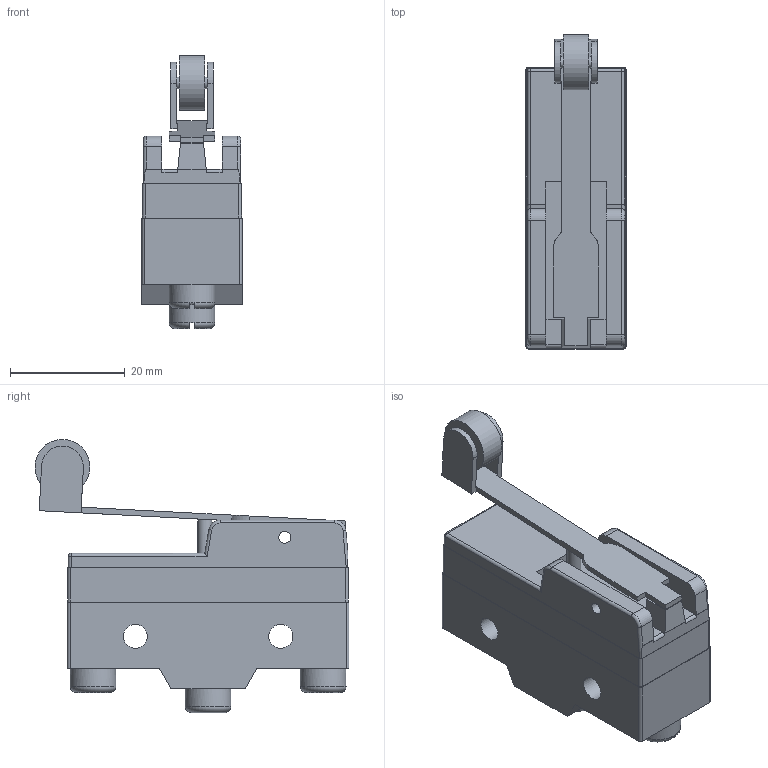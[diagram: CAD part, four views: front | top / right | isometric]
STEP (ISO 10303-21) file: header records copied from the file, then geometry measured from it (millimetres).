
FILE_DESCRIPTION(/* description */ (''),/* implementation_level */ '2;1');
FILE_NAME(/* name */ 'E:\Inventor 2016\제품 외형도\(\X2\C644B8CC\X0\) 리미트 스위치\직류용 마이크로 스위치 (Z형)\YSR1110GW-B.stp',/* time_stamp */ '2019-04-09T10:04:50+09:00',/* author */ ('Kim'),/* organization */ (''),/* preprocessor_version */ 'ST-DEVELOPER v16.1',/* originating_system */ 'Autodesk Inventor 2016',/* authorisation */ '');
FILE_SCHEMA (('AUTOMOTIVE_DESIGN { 1 0 10303 214 3 1 1 }'));
Length unit declared in the file: millimetre
Products named in the file (1): YSR1110GW-B
Bounding box: 17.5 x 54.82 x 47.69 mm (x, y, z)
Volume: 19563.3 mm3; surface area: 7517.2 mm2
Topology: 1 solids, 1 shells, 151 faces, 395 edges, 255 vertices
Faces by surface type: plane 96, cylinder 43, torus 10, sphere 2
Full cylindrical faces by diameter (mm): 2 x2, 2.1 x2, 2.5 x1, 4.2 x2, 8 x3, 9.6 x1
Entity records: 4715 total; most frequent: CARTESIAN_POINT 887, DIRECTION 775, ORIENTED_EDGE 756, EDGE_CURVE 378, LINE 261, VECTOR 261, AXIS2_PLACEMENT_3D 257, VERTEX_POINT 249
